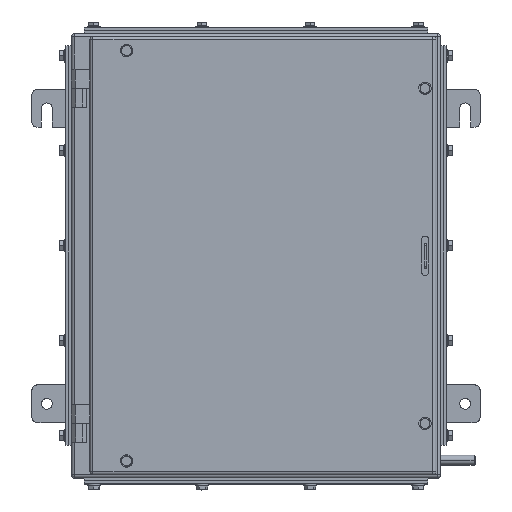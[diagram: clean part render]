
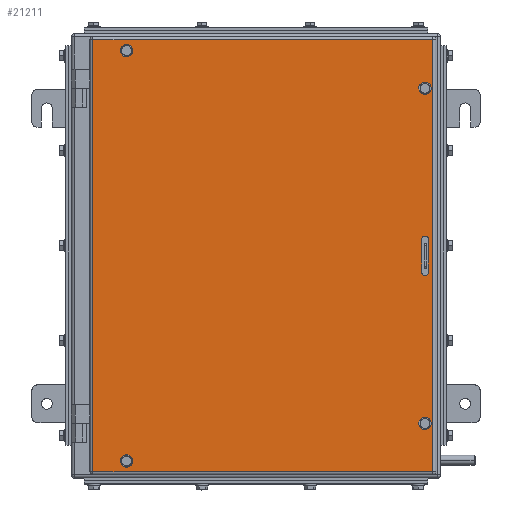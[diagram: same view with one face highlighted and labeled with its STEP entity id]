
A CAD part, top view. The second image highlights one B-rep face of the part: STEP entity #21211.
In plain terms, the highlighted planar face has unit normal (0, 0, 1).
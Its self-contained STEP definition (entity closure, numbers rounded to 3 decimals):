
#182 = AXIS2_PLACEMENT_3D ( 'NONE', #5677, #17184, #16922 ) ;
#288 = DIRECTION ( 'NONE',  ( 1., 0., 0. ) ) ;
#596 = DIRECTION ( 'NONE',  ( 0., 0., 1. ) ) ;
#981 = CIRCLE ( 'NONE', #17059, 3.5 ) ;
#1022 = ORIENTED_EDGE ( 'NONE', *, *, #24248, .F. ) ;
#1138 = VERTEX_POINT ( 'NONE', #15739 ) ;
#1166 = EDGE_CURVE ( 'NONE', #1843, #8822, #13930, .T. ) ;
#1703 = CARTESIAN_POINT ( 'NONE',  ( 360., 221., 18. ) ) ;
#1731 = DIRECTION ( 'NONE',  ( 1., 0., 0. ) ) ;
#1788 = VECTOR ( 'NONE', #9148, 1000. ) ;
#1843 = VERTEX_POINT ( 'NONE', #20969 ) ;
#1858 = DIRECTION ( 'NONE',  ( 0., 0., 1. ) ) ;
#2151 = DIRECTION ( 'NONE',  ( -1., 0., 0. ) ) ;
#2190 = ORIENTED_EDGE ( 'NONE', *, *, #23617, .F. ) ;
#2267 = AXIS2_PLACEMENT_3D ( 'NONE', #15617, #8266, #21820 ) ;
#2589 = VERTEX_POINT ( 'NONE', #24314 ) ;
#2641 = LINE ( 'NONE', #18648, #9212 ) ;
#3264 = VERTEX_POINT ( 'NONE', #11670 ) ;
#3278 = LINE ( 'NONE', #13133, #1788 ) ;
#3424 = CARTESIAN_POINT ( 'NONE',  ( 44.5, 207., 18. ) ) ;
#3444 = CIRCLE ( 'NONE', #6767, 3.5 ) ;
#3492 = CARTESIAN_POINT ( 'NONE',  ( 349., -169., 18. ) ) ;
#3524 = PLANE ( 'NONE',  #9235 ) ;
#3554 = EDGE_CURVE ( 'NONE', #8692, #4061, #24384, .T. ) ;
#3826 = EDGE_CURVE ( 'NONE', #5694, #3264, #4106, .T. ) ;
#3922 = VERTEX_POINT ( 'NONE', #8399 ) ;
#4061 = VERTEX_POINT ( 'NONE', #3424 ) ;
#4106 = CIRCLE ( 'NONE', #22717, 3.5 ) ;
#4565 = CARTESIAN_POINT ( 'NONE',  ( 345.5, 169., 18. ) ) ;
#4708 = DIRECTION ( 'NONE',  ( 1., 0., 0. ) ) ;
#4719 = CIRCLE ( 'NONE', #182, 3.5 ) ;
#4785 = VERTEX_POINT ( 'NONE', #16081 ) ;
#5216 = DIRECTION ( 'NONE',  ( 0., 0., -1. ) ) ;
#5481 = FACE_BOUND ( 'NONE', #15950, .T. ) ;
#5483 = EDGE_LOOP ( 'NONE', ( #13437, #19179 ) ) ;
#5677 = CARTESIAN_POINT ( 'NONE',  ( 349., -16.5, 18. ) ) ;
#5694 = VERTEX_POINT ( 'NONE', #6055 ) ;
#6055 = CARTESIAN_POINT ( 'NONE',  ( 345.5, -169., 18. ) ) ;
#6376 = CARTESIAN_POINT ( 'NONE',  ( 48., 207., 18. ) ) ;
#6677 = ORIENTED_EDGE ( 'NONE', *, *, #25521, .F. ) ;
#6732 = ORIENTED_EDGE ( 'NONE', *, *, #7245, .T. ) ;
#6767 = AXIS2_PLACEMENT_3D ( 'NONE', #22441, #20605, #4708 ) ;
#6792 = VECTOR ( 'NONE', #25303, 1000. ) ;
#6983 = DIRECTION ( 'NONE',  ( 1., 0., 0. ) ) ;
#7022 = LINE ( 'NONE', #21263, #6792 ) ;
#7153 = CARTESIAN_POINT ( 'NONE',  ( 352.5, 169., 18. ) ) ;
#7245 = EDGE_CURVE ( 'NONE', #8047, #1843, #10982, .T. ) ;
#7834 = DIRECTION ( 'NONE',  ( 1., 0., 0. ) ) ;
#7913 = AXIS2_PLACEMENT_3D ( 'NONE', #18742, #24750, #6983 ) ;
#8047 = VERTEX_POINT ( 'NONE', #23915 ) ;
#8090 = VERTEX_POINT ( 'NONE', #15479 ) ;
#8266 = DIRECTION ( 'NONE',  ( 0., 0., 1. ) ) ;
#8399 = CARTESIAN_POINT ( 'NONE',  ( 345.5, -16.5, 18. ) ) ;
#8508 = AXIS2_PLACEMENT_3D ( 'NONE', #16272, #596, #22592 ) ;
#8692 = VERTEX_POINT ( 'NONE', #8823 ) ;
#8765 = ORIENTED_EDGE ( 'NONE', *, *, #13440, .F. ) ;
#8822 = VERTEX_POINT ( 'NONE', #13070 ) ;
#8823 = CARTESIAN_POINT ( 'NONE',  ( 51.5, 207., 18. ) ) ;
#8880 = EDGE_CURVE ( 'NONE', #3922, #20666, #4719, .T. ) ;
#9075 = ORIENTED_EDGE ( 'NONE', *, *, #21103, .F. ) ;
#9148 = DIRECTION ( 'NONE',  ( 1., 0., 0. ) ) ;
#9212 = VECTOR ( 'NONE', #20377, 1000. ) ;
#9235 = AXIS2_PLACEMENT_3D ( 'NONE', #1703, #5216, #21267 ) ;
#9391 = FACE_BOUND ( 'NONE', #12099, .T. ) ;
#9839 = EDGE_LOOP ( 'NONE', ( #23359, #6732, #12740, #15951 ) ) ;
#10257 = ORIENTED_EDGE ( 'NONE', *, *, #3826, .F. ) ;
#10635 = EDGE_LOOP ( 'NONE', ( #1022, #10257 ) ) ;
#10982 = LINE ( 'NONE', #22861, #20215 ) ;
#11556 = FACE_BOUND ( 'NONE', #5483, .T. ) ;
#11670 = CARTESIAN_POINT ( 'NONE',  ( 352.5, -169., 18. ) ) ;
#12099 = EDGE_LOOP ( 'NONE', ( #16694, #8765 ) ) ;
#12422 = ORIENTED_EDGE ( 'NONE', *, *, #16311, .F. ) ;
#12449 = EDGE_CURVE ( 'NONE', #20666, #8090, #17331, .T. ) ;
#12616 = DIRECTION ( 'NONE',  ( 0., 0., 1. ) ) ;
#12740 = ORIENTED_EDGE ( 'NONE', *, *, #1166, .T. ) ;
#13070 = CARTESIAN_POINT ( 'NONE',  ( 14., 218., 18. ) ) ;
#13133 = CARTESIAN_POINT ( 'NONE',  ( 360., -218., 18. ) ) ;
#13401 = DIRECTION ( 'NONE',  ( 0., 0., 1. ) ) ;
#13432 = CIRCLE ( 'NONE', #2267, 3.5 ) ;
#13437 = ORIENTED_EDGE ( 'NONE', *, *, #16523, .F. ) ;
#13440 = EDGE_CURVE ( 'NONE', #4061, #8692, #981, .T. ) ;
#13782 = AXIS2_PLACEMENT_3D ( 'NONE', #16363, #12616, #14390 ) ;
#13930 = LINE ( 'NONE', #21701, #16649 ) ;
#14390 = DIRECTION ( 'NONE',  ( 1., 0., 0. ) ) ;
#15291 = FACE_BOUND ( 'NONE', #21987, .T. ) ;
#15479 = CARTESIAN_POINT ( 'NONE',  ( 352.5, 16.5, 18. ) ) ;
#15617 = CARTESIAN_POINT ( 'NONE',  ( 349., 169., 18. ) ) ;
#15739 = CARTESIAN_POINT ( 'NONE',  ( 14., -218., 18. ) ) ;
#15779 = ORIENTED_EDGE ( 'NONE', *, *, #8880, .F. ) ;
#15950 = EDGE_LOOP ( 'NONE', ( #9075, #6677, #24209, #15779 ) ) ;
#15951 = ORIENTED_EDGE ( 'NONE', *, *, #19774, .T. ) ;
#16081 = CARTESIAN_POINT ( 'NONE',  ( 345.5, 16.5, 18. ) ) ;
#16272 = CARTESIAN_POINT ( 'NONE',  ( 48., -207., 18. ) ) ;
#16311 = EDGE_CURVE ( 'NONE', #23630, #23809, #13432, .T. ) ;
#16363 = CARTESIAN_POINT ( 'NONE',  ( 349., 169., 18. ) ) ;
#16523 = EDGE_CURVE ( 'NONE', #21222, #2589, #19631, .T. ) ;
#16608 = CIRCLE ( 'NONE', #22813, 3.5 ) ;
#16649 = VECTOR ( 'NONE', #2151, 1000. ) ;
#16694 = ORIENTED_EDGE ( 'NONE', *, *, #3554, .F. ) ;
#16922 = DIRECTION ( 'NONE',  ( 1., 0., 0. ) ) ;
#17059 = AXIS2_PLACEMENT_3D ( 'NONE', #19591, #1858, #7834 ) ;
#17104 = FACE_OUTER_BOUND ( 'NONE', #9839, .T. ) ;
#17184 = DIRECTION ( 'NONE',  ( 0., 0., 1. ) ) ;
#17199 = DIRECTION ( 'NONE',  ( 0., 0., 1. ) ) ;
#17331 = LINE ( 'NONE', #25288, #22191 ) ;
#17782 = CIRCLE ( 'NONE', #7913, 3.5 ) ;
#18007 = DIRECTION ( 'NONE',  ( 0., 0., 1. ) ) ;
#18648 = CARTESIAN_POINT ( 'NONE',  ( 345.5, 16.5, 18. ) ) ;
#18742 = CARTESIAN_POINT ( 'NONE',  ( 349., -169., 18. ) ) ;
#19163 = DIRECTION ( 'NONE',  ( 0., 1., 0. ) ) ;
#19179 = ORIENTED_EDGE ( 'NONE', *, *, #19648, .F. ) ;
#19305 = EDGE_CURVE ( 'NONE', #1138, #8047, #3278, .T. ) ;
#19591 = CARTESIAN_POINT ( 'NONE',  ( 48., 207., 18. ) ) ;
#19631 = CIRCLE ( 'NONE', #8508, 3.5 ) ;
#19648 = EDGE_CURVE ( 'NONE', #2589, #21222, #3444, .T. ) ;
#19774 = EDGE_CURVE ( 'NONE', #8822, #1138, #7022, .T. ) ;
#20215 = VECTOR ( 'NONE', #20778, 1000. ) ;
#20219 = AXIS2_PLACEMENT_3D ( 'NONE', #6376, #18007, #288 ) ;
#20377 = DIRECTION ( 'NONE',  ( 0., -1., 0. ) ) ;
#20605 = DIRECTION ( 'NONE',  ( 0., 0., 1. ) ) ;
#20666 = VERTEX_POINT ( 'NONE', #21986 ) ;
#20778 = DIRECTION ( 'NONE',  ( 0., 1., 0. ) ) ;
#20969 = CARTESIAN_POINT ( 'NONE',  ( 357., 218., 18. ) ) ;
#21103 = EDGE_CURVE ( 'NONE', #4785, #3922, #2641, .T. ) ;
#21211 = ADVANCED_FACE ( 'NONE', ( #5481, #11556, #22954, #15291, #9391, #17104 ), #3524, .F. ) ;
#21222 = VERTEX_POINT ( 'NONE', #25308 ) ;
#21263 = CARTESIAN_POINT ( 'NONE',  ( 14., 221., 18. ) ) ;
#21267 = DIRECTION ( 'NONE',  ( -1., 0., 0. ) ) ;
#21701 = CARTESIAN_POINT ( 'NONE',  ( 360., 218., 18. ) ) ;
#21820 = DIRECTION ( 'NONE',  ( 1., 0., 0. ) ) ;
#21950 = DIRECTION ( 'NONE',  ( 1., 0., 0. ) ) ;
#21986 = CARTESIAN_POINT ( 'NONE',  ( 352.5, -16.5, 18. ) ) ;
#21987 = EDGE_LOOP ( 'NONE', ( #2190, #12422 ) ) ;
#22191 = VECTOR ( 'NONE', #19163, 1000. ) ;
#22441 = CARTESIAN_POINT ( 'NONE',  ( 48., -207., 18. ) ) ;
#22592 = DIRECTION ( 'NONE',  ( 1., 0., 0. ) ) ;
#22717 = AXIS2_PLACEMENT_3D ( 'NONE', #3492, #17199, #21950 ) ;
#22813 = AXIS2_PLACEMENT_3D ( 'NONE', #23904, #13401, #1731 ) ;
#22861 = CARTESIAN_POINT ( 'NONE',  ( 357., 221., 18. ) ) ;
#22954 = FACE_BOUND ( 'NONE', #10635, .T. ) ;
#23359 = ORIENTED_EDGE ( 'NONE', *, *, #19305, .T. ) ;
#23617 = EDGE_CURVE ( 'NONE', #23809, #23630, #24965, .T. ) ;
#23630 = VERTEX_POINT ( 'NONE', #4565 ) ;
#23809 = VERTEX_POINT ( 'NONE', #7153 ) ;
#23904 = CARTESIAN_POINT ( 'NONE',  ( 349., 16.5, 18. ) ) ;
#23915 = CARTESIAN_POINT ( 'NONE',  ( 357., -218., 18. ) ) ;
#24209 = ORIENTED_EDGE ( 'NONE', *, *, #12449, .F. ) ;
#24248 = EDGE_CURVE ( 'NONE', #3264, #5694, #17782, .T. ) ;
#24314 = CARTESIAN_POINT ( 'NONE',  ( 44.5, -207., 18. ) ) ;
#24384 = CIRCLE ( 'NONE', #20219, 3.5 ) ;
#24750 = DIRECTION ( 'NONE',  ( 0., 0., 1. ) ) ;
#24965 = CIRCLE ( 'NONE', #13782, 3.5 ) ;
#25288 = CARTESIAN_POINT ( 'NONE',  ( 352.5, 16.5, 18. ) ) ;
#25303 = DIRECTION ( 'NONE',  ( 0., -1., 0. ) ) ;
#25308 = CARTESIAN_POINT ( 'NONE',  ( 51.5, -207., 18. ) ) ;
#25521 = EDGE_CURVE ( 'NONE', #8090, #4785, #16608, .T. ) ;
